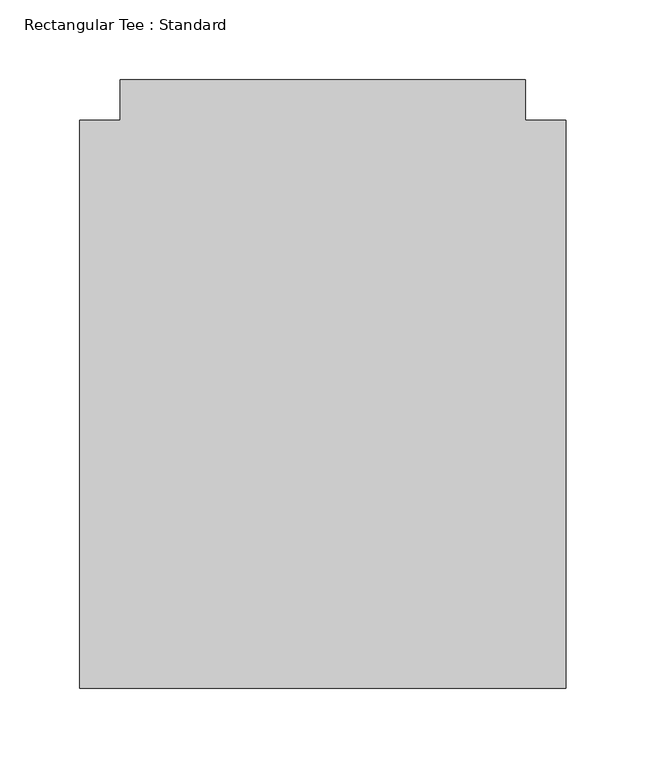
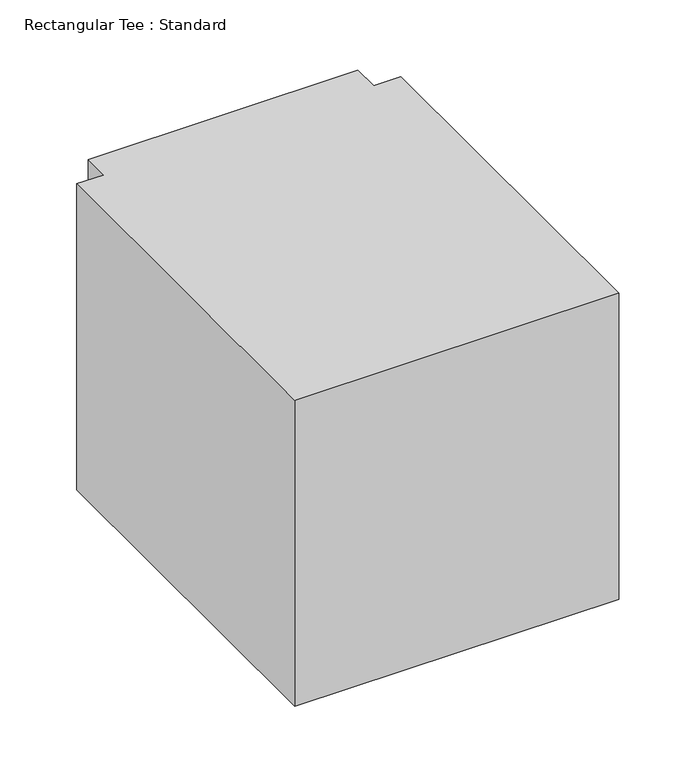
"""IFC4 building model written with IfcOpenShell, lengths in millimetres: duct fitting geometry, Rectangular Tee : Standard."""

import ifcopenshell
import ifcopenshell.guid

model = None  # the IFC model being written
_history = None  # IfcOwnerHistory: only IFC2X3 demands one
_inside = {}  # id of a spatial element -> (the spatial element, [elements in it])
_under = {}  # id of a project, library or spatial element -> (it, [spatial elements below it])
_declared = {}  # id of a project -> (the project, [libraries it declares])
_typed = {}  # id of a type object -> (the type object, [elements of that type])
_made_of = {}  # id of a material, layer set ... -> (it, [elements and type objects made of it])


def new_model(schema):
    """Start an empty IFC model of exactly this schema.

    Asked for "IFC4X3", IfcOpenShell would pick the latest addendum, in which some entities
    have other attributes; the version numbers below select the first issue.
    IFC2X3 requires an IfcOwnerHistory on every rooted entity: one is made here for all.
    """
    global model, _history
    if schema == "IFC4X3":
        model = ifcopenshell.file(schema_version=(4, 3, 0, 0))
    else:
        model = ifcopenshell.file(schema=schema)
    _inside.clear()
    _under.clear()
    _declared.clear()
    _typed.clear()
    _made_of.clear()
    _history = None
    if model.schema == "IFC2X3":
        org = make("IfcOrganization", Name="unknown")
        user = make(
            "IfcPersonAndOrganization",
            ThePerson=make("IfcPerson", FamilyName="unknown"),
            TheOrganization=org,
        )
        app = make(
            "IfcApplication",
            ApplicationDeveloper=org,
            Version="unknown",
            ApplicationFullName="unknown",
            ApplicationIdentifier="unknown",
        )
        _history = make(
            "IfcOwnerHistory",
            OwningUser=user,
            OwningApplication=app,
            ChangeAction="ADDED",
            CreationDate=0,
        )
    return model


def make(cls, **values):
    """One entity of the class cls with the attributes given. An attribute that is None is left unset."""
    return model.create_entity(
        cls, **{name: value for name, value in values.items() if value is not None}
    )


def rooted(cls, **values):
    """An entity with a GlobalId (a new one), such as an element, a storey or a relation."""
    return make(cls, GlobalId=ifcopenshell.guid.new(), OwnerHistory=_history, **values)


def si_unit(unit_type, name, prefix=None):
    """IfcSIUnit, for example si_unit("LENGTHUNIT", "METRE", prefix="MILLI")."""
    return make("IfcSIUnit", UnitType=unit_type, Prefix=prefix, Name=name)


def assignment(units):
    """IfcUnitAssignment: the units of a project."""
    return None if units is None else make("IfcUnitAssignment", Units=units)


def point(xyz):
    """IfcCartesianPoint."""
    return None if xyz is None else make("IfcCartesianPoint", Coordinates=xyz)


def direction(xyz):
    """IfcDirection."""
    return None if xyz is None else make("IfcDirection", DirectionRatios=xyz)


def frame(location, z_axis=None, x_axis=None):
    """IfcAxis2Placement3D, a coordinate frame: its origin and axes. An axis left out is left unset."""
    return make(
        "IfcAxis2Placement3D",
        Location=point(location),
        Axis=direction(z_axis),
        RefDirection=direction(x_axis),
    )


def origin():
    """The frame at (0, 0, 0) with its axes left unset."""
    return frame((0.0, 0.0, 0.0))


def place(relative_to, where):
    """IfcLocalPlacement: puts the frame where relative to a parent placement (None: the world)."""
    return make(
        "IfcLocalPlacement", PlacementRelTo=relative_to, RelativePlacement=where
    )


def context(
    kind, dimensions, precision=None, world=None, true_north=None, identifier=None
):
    """IfcGeometricRepresentationContext, for example the 3D "Model" context."""
    return make(
        "IfcGeometricRepresentationContext",
        ContextIdentifier=identifier,
        ContextType=kind,
        CoordinateSpaceDimension=dimensions,
        Precision=precision,
        WorldCoordinateSystem=world,
        TrueNorth=true_north,
    )


def project(units=None, contexts=None):
    """IfcProject with its units and contexts."""
    return rooted(
        "IfcProject",
        Name="project",
        RepresentationContexts=contexts,
        UnitsInContext=assignment(units),
    )


def spatial(cls, under=None, at=None, **own):
    """A site, building, storey or space (cls), placed at a placement, below another one or the project."""
    s = rooted(cls, ObjectPlacement=at, **own)
    if under is not None:
        _under.setdefault(under.id(), (under, []))[1].append(s)
    return s


def polyline(points):
    """IfcPolyline through the points."""
    return make("IfcPolyline", Points=[point(p) for p in points])


def outline(outer, holes=None, kind="AREA"):
    """IfcArbitraryClosedProfileDef: a profile drawn as a closed curve; with holes, ...WithVoids."""
    if holes is None:
        return make("IfcArbitraryClosedProfileDef", ProfileType=kind, OuterCurve=outer)
    return make(
        "IfcArbitraryProfileDefWithVoids",
        ProfileType=kind,
        OuterCurve=outer,
        InnerCurves=holes,
    )


def extrude(swept, where, along, depth):
    """IfcExtrudedAreaSolid: the profile swept, set in the frame where, extruded along a direction by depth."""
    return make(
        "IfcExtrudedAreaSolid",
        SweptArea=swept,
        Position=where,
        ExtrudedDirection=direction(along),
        Depth=depth,
    )


def shape(context_of_items, identifier, shape_type, items):
    """IfcShapeRepresentation: the items that make up one representation, for example the "Body"."""
    return make(
        "IfcShapeRepresentation",
        ContextOfItems=context_of_items,
        RepresentationIdentifier=identifier,
        RepresentationType=shape_type,
        Items=items,
    )


def source(mapping_origin, context_of_items, identifier, shape_type, items):
    """IfcRepresentationMap: a shape defined once, which mapped items show again and again."""
    return make(
        "IfcRepresentationMap",
        MappingOrigin=mapping_origin,
        MappedRepresentation=shape(context_of_items, identifier, shape_type, items),
    )


def transform(
    local_origin,
    x_axis=None,
    y_axis=None,
    z_axis=None,
    scale=None,
    scale2=None,
    scale3=None,
    uniform=True,
):
    """IfcCartesianTransformationOperator3D, or its non-uniform kind. x_axis, y_axis, z_axis: its Axis1, 2, 3."""
    if uniform:
        return make(
            "IfcCartesianTransformationOperator3D",
            Axis1=direction(x_axis),
            Axis2=direction(y_axis),
            LocalOrigin=point(local_origin),
            Scale=scale,
            Axis3=direction(z_axis),
        )
    return make(
        "IfcCartesianTransformationOperator3DnonUniform",
        Axis1=direction(x_axis),
        Axis2=direction(y_axis),
        LocalOrigin=point(local_origin),
        Scale=scale,
        Axis3=direction(z_axis),
        Scale2=scale2,
        Scale3=scale3,
    )


def mapped(mapping_source, mapping_target):
    """IfcMappedItem: shows the shape of a source again, moved by a transform."""
    return make(
        "IfcMappedItem", MappingSource=mapping_source, MappingTarget=mapping_target
    )


def made_of(thing, what):
    """Note that an element or type object is made of a material, layer set ...; save() writes the relation."""
    if what is not None:
        _made_of.setdefault(what.id(), (what, []))[1].append(thing)
    return thing


def element(
    cls,
    number,
    at=None,
    inside=None,
    cuts=None,
    type_object=None,
    material=None,
    context=None,
    identifier="Body",
    shape_type=None,
    held_by="IfcProductDefinitionShape",
    body=None,
    shapes=None,
    **own,
):
    """One element of the class cls, such as IfcWall. Its Tag is "e" and its number.

    at: its placement. inside: the storey or other place that contains it. cuts: it is an
    opening in that element (IfcRelVoidsElement). A single representation is given by context,
    identifier, shape_type and body (its items); several are given by shapes. held_by: the class
    of the entity that holds the representations. save() writes the other relations.
    """
    e = rooted(cls, Tag="e%d" % number, ObjectPlacement=at, **own)
    if body is not None:
        shapes = [shape(context, identifier, shape_type, body)]
    if shapes is not None:
        e.Representation = make(held_by, Representations=shapes)
    if inside is not None:
        _inside.setdefault(inside.id(), (inside, []))[1].append(e)
    if cuts is not None:
        rooted(
            "IfcRelVoidsElement", RelatingBuildingElement=cuts, RelatedOpeningElement=e
        )
    if type_object is not None:
        _typed.setdefault(type_object.id(), (type_object, []))[1].append(e)
    return made_of(e, material)


def aggregate(whole, parts):
    """IfcRelAggregates: a whole, such as a stair, and the parts it consists of."""
    return rooted("IfcRelAggregates", RelatingObject=whole, RelatedObjects=parts)


def save(model, path):
    """Write the relations noted so far, then the file.

    IfcRelAggregates (storeys below a building ...), IfcRelContainedInSpatialStructure (elements
    in a storey), IfcRelDefinesByType, IfcRelAssociatesMaterial and IfcRelDeclares: one each for
    every whole, place, type object, material and project.
    """
    for whole, parts in _under.values():
        aggregate(whole, parts)
    for where, things in _inside.values():
        rooted(
            "IfcRelContainedInSpatialStructure",
            RelatedElements=things,
            RelatingStructure=where,
        )
    for kind, things in _typed.values():
        rooted("IfcRelDefinesByType", RelatedObjects=things, RelatingType=kind)
    for what, things in _made_of.values():
        rooted("IfcRelAssociatesMaterial", RelatedObjects=things, RelatingMaterial=what)
    for by, libraries in _declared.values():
        rooted("IfcRelDeclares", RelatingContext=by, RelatedDefinitions=libraries)
    model.write(path)


def rectangular_tee_standard_47919d39(model_context):
    return source(origin(), model_context, "Body", "SweptSolid", [
        extrude(outline(polyline([(-152.4, 177.8), (-127.0, 177.8), (-127.0, 203.2), (127.0, 203.2), (127.0, 177.8), (152.4, 177.8), (152.4, -177.8), (-152.4, -177.8), (-152.4, 177.8)])), frame((0.0, 0.0, -152.4), z_axis=(0.0, 0.0, 1.0), x_axis=(1.0, 0.0, 0.0)), (0.0, 0.0, 1.0), 304.8),
    ])


if __name__ == "__main__":
    model = new_model("IFC4")
    model_context = context("Model", 3, world=origin())
    ifc_project = project(units=[si_unit("LENGTHUNIT", "METRE", prefix="MILLI")], contexts=[model_context])
    site = spatial("IfcSite", under=ifc_project)
    building = spatial("IfcBuilding", under=site)
    placement = place(None, origin())
    rectangular_tee_standard_shape = rectangular_tee_standard_47919d39(model_context)
    element("IfcDuctFitting", 1, ObjectType="Rectangular Tee : Standard", at=placement, inside=building, context=model_context, shape_type="MappedRepresentation", body=[
        mapped(rectangular_tee_standard_shape, transform((0.0, 0.0, 0.0), x_axis=(1.0, 0.0, 0.0), y_axis=(0.0, 1.0, 0.0), z_axis=(0.0, 0.0, 1.0))),
    ])
    save(model, "model.ifc")
